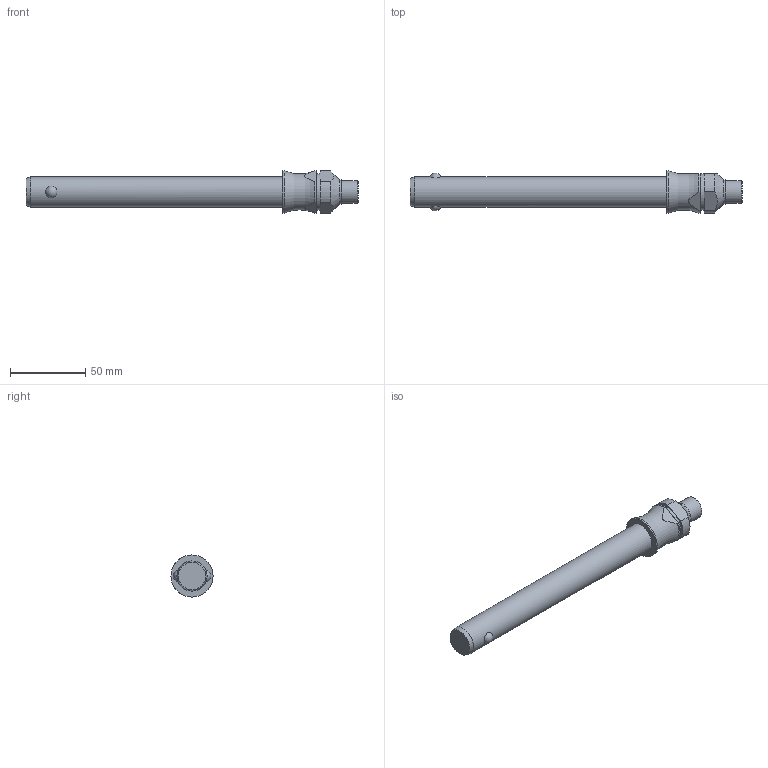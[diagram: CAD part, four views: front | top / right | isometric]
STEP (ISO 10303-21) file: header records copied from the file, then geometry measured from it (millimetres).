
FILE_DESCRIPTION( ( 'STEP AP203' ), '1' );
FILE_NAME( 'C:/Temp/Ganter_Step_05_03_2020/data/3_1/gn113_3/Stainless Steel-Ball lock pin GN 113.3-20-150 (deactivated).stp', '2020-03-12T08:19:08', ( 'License CC BY-ND 4.0' ), ( 'CADENAS' ), ' ', 'PARTsolutions', ' ' );
FILE_SCHEMA( ( 'CONFIG_CONTROL_DESIGN' ) );
Length unit declared in the file: millimetre
Products named in the file (1): _Stainless Steel-Ball lock pin GN 113.3-20-150 (deactivated)
Bounding box: 220.6 x 28 x 28 mm (x, y, z)
Volume: 74365.2 mm3; surface area: 15476.9 mm2
Topology: 1 solids, 1 shells, 29 faces, 62 edges, 40 vertices
Faces by surface type: plane 11, cylinder 11, cone 4, sphere 2, torus 1
Full cylindrical faces by diameter (mm): 15 x1, 16 x1, 20 x1, 24 x1, 28 x1
Entity records: 1010 total; most frequent: CARTESIAN_POINT 380, DIRECTION 126, ORIENTED_EDGE 100, AXIS2_PLACEMENT_3D 54, EDGE_CURVE 50, EDGE_LOOP 44, VERTEX_POINT 38, FACE_OUTER_BOUND 35
